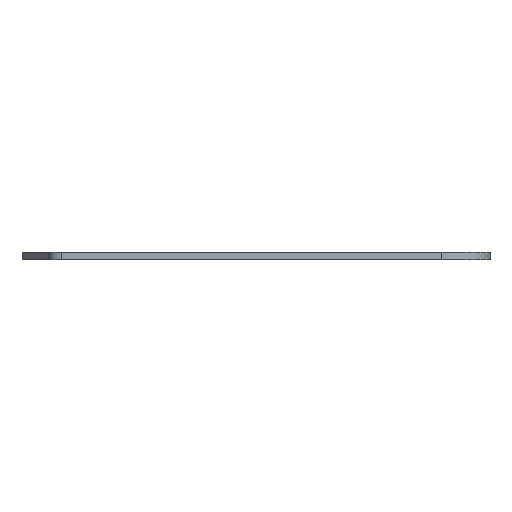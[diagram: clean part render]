
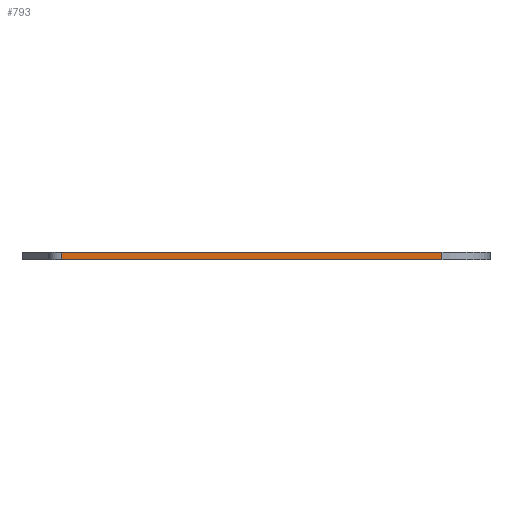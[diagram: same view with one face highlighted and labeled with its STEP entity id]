
A CAD part, left-side view. The second image highlights one B-rep face of the part: STEP entity #793.
In plain terms, the highlighted planar face has unit normal (-1, 0, 0).
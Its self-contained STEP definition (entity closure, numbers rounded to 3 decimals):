
#32 = EDGE_CURVE('',#33,#35,#37,.T.);
#33 = VERTEX_POINT('',#34);
#34 = CARTESIAN_POINT('',(-0.007,9.987,-1.646)
  );
#35 = VERTEX_POINT('',#36);
#36 = CARTESIAN_POINT('',(-0.007,9.987,0.));
#37 = SURFACE_CURVE('',#38,(#42,#54),.PCURVE_S1.);
#38 = LINE('',#39,#40);
#39 = CARTESIAN_POINT('',(-0.007,9.987,-1.646)
  );
#40 = VECTOR('',#41,1.);
#41 = DIRECTION('',(0.,0.,1.));
#42 = PCURVE('',#43,#48);
#43 = CYLINDRICAL_SURFACE('',#44,10.);
#44 = AXIS2_PLACEMENT_3D('',#45,#46,#47);
#45 = CARTESIAN_POINT('',(9.993,9.987,-1.646));
#46 = DIRECTION('',(0.,0.,-1.));
#47 = DIRECTION('',(-1.,0.,0.));
#48 = DEFINITIONAL_REPRESENTATION('',(#49),#53);
#49 = LINE('',#50,#51);
#50 = CARTESIAN_POINT('',(0.,0.));
#51 = VECTOR('',#52,1.);
#52 = DIRECTION('',(0.,-1.));
#53 = ( GEOMETRIC_REPRESENTATION_CONTEXT(2) 
PARAMETRIC_REPRESENTATION_CONTEXT() REPRESENTATION_CONTEXT('2D SPACE',''
  ) );
#54 = PCURVE('',#55,#60);
#55 = PLANE('',#56);
#56 = AXIS2_PLACEMENT_3D('',#57,#58,#59);
#57 = CARTESIAN_POINT('',(-0.001,89.177,-1.646)
  );
#58 = DIRECTION('',(1.,0.,0.));
#59 = DIRECTION('',(0.,-1.,0.));
#60 = DEFINITIONAL_REPRESENTATION('',(#61),#65);
#61 = LINE('',#62,#63);
#62 = CARTESIAN_POINT('',(79.19,0.));
#63 = VECTOR('',#64,1.);
#64 = DIRECTION('',(0.,-1.));
#65 = ( GEOMETRIC_REPRESENTATION_CONTEXT(2) 
PARAMETRIC_REPRESENTATION_CONTEXT() REPRESENTATION_CONTEXT('2D SPACE',''
  ) );
#84 = PLANE('',#85);
#85 = AXIS2_PLACEMENT_3D('',#86,#87,#88);
#86 = CARTESIAN_POINT('',(-0.007,9.987,0.));
#87 = DIRECTION('',(0.,0.,-1.));
#88 = DIRECTION('',(-1.,0.,0.));
#143 = PLANE('',#144);
#144 = AXIS2_PLACEMENT_3D('',#145,#146,#147);
#145 = CARTESIAN_POINT('',(-0.007,9.987,-1.646)
  );
#146 = DIRECTION('',(0.,0.,-1.));
#147 = DIRECTION('',(-1.,0.,0.));
#680 = CYLINDRICAL_SURFACE('',#681,2.933);
#681 = AXIS2_PLACEMENT_3D('',#682,#683,#684);
#682 = CARTESIAN_POINT('',(2.932,89.176,-1.646));
#683 = DIRECTION('',(0.,0.,-1.));
#684 = DIRECTION('',(-0.248,0.969,0.));
#718 = VERTEX_POINT('',#719);
#719 = CARTESIAN_POINT('',(-0.001,89.177,0.)
  );
#745 = EDGE_CURVE('',#746,#718,#748,.T.);
#746 = VERTEX_POINT('',#747);
#747 = CARTESIAN_POINT('',(-0.001,89.177,-1.646
    ));
#748 = SURFACE_CURVE('',#749,(#753,#760),.PCURVE_S1.);
#749 = LINE('',#750,#751);
#750 = CARTESIAN_POINT('',(-0.001,89.177,-1.646
    ));
#751 = VECTOR('',#752,1.);
#752 = DIRECTION('',(0.,0.,1.));
#753 = PCURVE('',#680,#754);
#754 = DEFINITIONAL_REPRESENTATION('',(#755),#759);
#755 = LINE('',#756,#757);
#756 = CARTESIAN_POINT('',(-1.319,0.));
#757 = VECTOR('',#758,1.);
#758 = DIRECTION('',(0.,-1.));
#759 = ( GEOMETRIC_REPRESENTATION_CONTEXT(2) 
PARAMETRIC_REPRESENTATION_CONTEXT() REPRESENTATION_CONTEXT('2D SPACE',''
  ) );
#760 = PCURVE('',#55,#761);
#761 = DEFINITIONAL_REPRESENTATION('',(#762),#766);
#762 = LINE('',#763,#764);
#763 = CARTESIAN_POINT('',(0.,0.));
#764 = VECTOR('',#765,1.);
#765 = DIRECTION('',(0.,-1.));
#766 = ( GEOMETRIC_REPRESENTATION_CONTEXT(2) 
PARAMETRIC_REPRESENTATION_CONTEXT() REPRESENTATION_CONTEXT('2D SPACE',''
  ) );
#793 = ADVANCED_FACE('',(#794),#55,.F.);
#794 = FACE_BOUND('',#795,.F.);
#795 = EDGE_LOOP('',(#796,#797,#818,#819));
#796 = ORIENTED_EDGE('',*,*,#745,.T.);
#797 = ORIENTED_EDGE('',*,*,#798,.T.);
#798 = EDGE_CURVE('',#718,#35,#799,.T.);
#799 = SURFACE_CURVE('',#800,(#804,#811),.PCURVE_S1.);
#800 = LINE('',#801,#802);
#801 = CARTESIAN_POINT('',(-0.001,89.177,0.)
  );
#802 = VECTOR('',#803,1.);
#803 = DIRECTION('',(0.,-1.,0.));
#804 = PCURVE('',#55,#805);
#805 = DEFINITIONAL_REPRESENTATION('',(#806),#810);
#806 = LINE('',#807,#808);
#807 = CARTESIAN_POINT('',(0.,-1.646));
#808 = VECTOR('',#809,1.);
#809 = DIRECTION('',(1.,0.));
#810 = ( GEOMETRIC_REPRESENTATION_CONTEXT(2) 
PARAMETRIC_REPRESENTATION_CONTEXT() REPRESENTATION_CONTEXT('2D SPACE',''
  ) );
#811 = PCURVE('',#84,#812);
#812 = DEFINITIONAL_REPRESENTATION('',(#813),#817);
#813 = LINE('',#814,#815);
#814 = CARTESIAN_POINT('',(-0.006,79.19));
#815 = VECTOR('',#816,1.);
#816 = DIRECTION('',(0.,-1.));
#817 = ( GEOMETRIC_REPRESENTATION_CONTEXT(2) 
PARAMETRIC_REPRESENTATION_CONTEXT() REPRESENTATION_CONTEXT('2D SPACE',''
  ) );
#818 = ORIENTED_EDGE('',*,*,#32,.F.);
#819 = ORIENTED_EDGE('',*,*,#820,.F.);
#820 = EDGE_CURVE('',#746,#33,#821,.T.);
#821 = SURFACE_CURVE('',#822,(#826,#833),.PCURVE_S1.);
#822 = LINE('',#823,#824);
#823 = CARTESIAN_POINT('',(-0.001,89.177,-1.646
    ));
#824 = VECTOR('',#825,1.);
#825 = DIRECTION('',(0.,-1.,0.));
#826 = PCURVE('',#55,#827);
#827 = DEFINITIONAL_REPRESENTATION('',(#828),#832);
#828 = LINE('',#829,#830);
#829 = CARTESIAN_POINT('',(0.,0.));
#830 = VECTOR('',#831,1.);
#831 = DIRECTION('',(1.,0.));
#832 = ( GEOMETRIC_REPRESENTATION_CONTEXT(2) 
PARAMETRIC_REPRESENTATION_CONTEXT() REPRESENTATION_CONTEXT('2D SPACE',''
  ) );
#833 = PCURVE('',#143,#834);
#834 = DEFINITIONAL_REPRESENTATION('',(#835),#839);
#835 = LINE('',#836,#837);
#836 = CARTESIAN_POINT('',(-0.006,79.19));
#837 = VECTOR('',#838,1.);
#838 = DIRECTION('',(0.,-1.));
#839 = ( GEOMETRIC_REPRESENTATION_CONTEXT(2) 
PARAMETRIC_REPRESENTATION_CONTEXT() REPRESENTATION_CONTEXT('2D SPACE',''
  ) );
